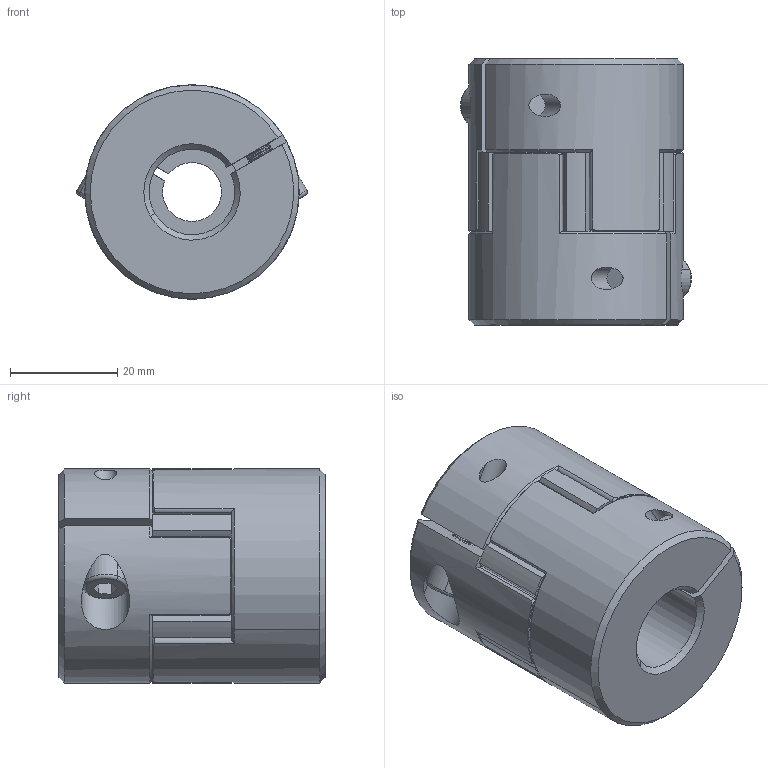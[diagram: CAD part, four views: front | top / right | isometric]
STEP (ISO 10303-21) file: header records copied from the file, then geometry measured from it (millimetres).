
FILE_DESCRIPTION (( 'STEP AP203' ), '1' );
FILE_NAME ('LF-B-D40L50-11-16.STEP', '2021-10-25T02:42:06', ( '' ), ( '' ), 'SwSTEP 2.0', 'SolidWorks 2018', '' );
FILE_SCHEMA (( 'CONFIG_CONTROL_DESIGN' ));
Length unit declared in the file: millimetre
Products named in the file (1): LF-B-D40L50-11-16
Bounding box: 43.11 x 49.7 x 40 mm (x, y, z)
Volume: 51738.9 mm3; surface area: 14638.4 mm2
Topology: 1 solids, 7 shells, 471 faces, 1117 edges, 662 vertices
Faces by surface type: cone 170, cylinder 169, plane 128, torus 4
Entity records: 13972 total; most frequent: CARTESIAN_POINT 2895, DIRECTION 2509, ORIENTED_EDGE 2226, EDGE_CURVE 1113, AXIS2_PLACEMENT_3D 1040, VERTEX_POINT 662, CIRCLE 568, EDGE_LOOP 487
